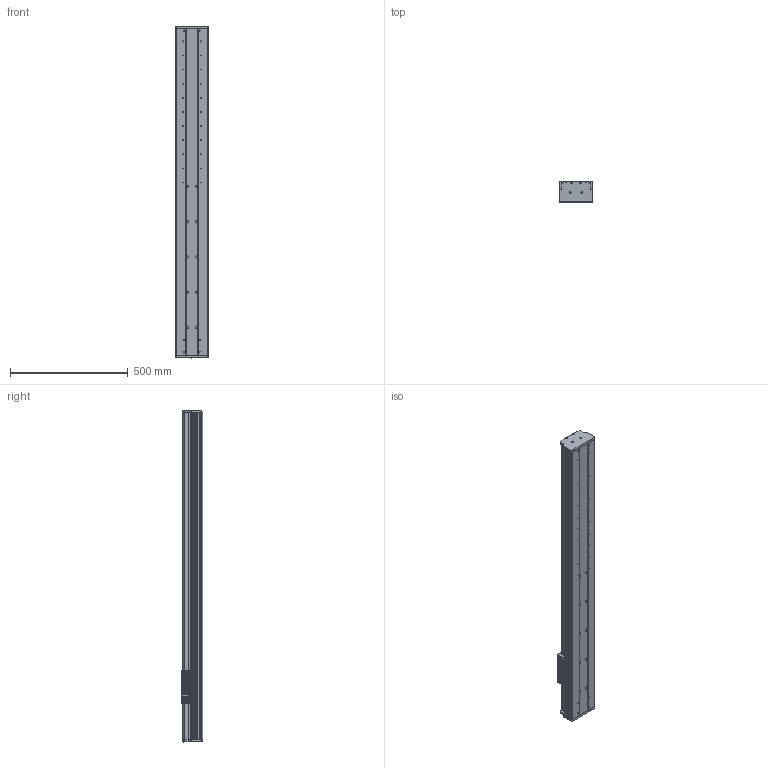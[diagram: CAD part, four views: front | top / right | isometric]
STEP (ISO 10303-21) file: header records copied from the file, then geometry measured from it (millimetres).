
FILE_DESCRIPTION (( 'STEP AP203' ), '1' );
FILE_NAME ('CF140B-C-1100-FW.STEP', '2020-06-13T01:45:33', ( 'Micorosoft' ), ( 'Micorosoft' ), 'SwSTEP 2.0', 'SolidWorks 2016', '' );
FILE_SCHEMA (( 'CONFIG_CONTROL_DESIGN' ));
Length unit declared in the file: millimetre
Products named in the file (10): CF140萇儂啣; 140B珨极嘐隅釱; 菁釱; CF140B-C-1100-FW; 15賑輸; 15絳寢; CF140蹟譫釱; CF140賑雄啣; CF140盓傅釱; CF140裔啣
Assembly tree (13 placements, depth 2):
  CF140B-C-1100-FW
    菁釱
    15賑輸  x4
    15絳寢  x2
    CF140蹟譫釱
    CF140賑雄啣
    CF140盓傅釱
    CF140裔啣
    CF140萇儂啣
    140B珨极嘐隅釱
Bounding box: 140.05 x 89.5 x 1410 mm (x, y, z)
Volume: 5812211.7 mm3; surface area: 2096888.3 mm2
Topology: 13 solids, 13 shells, 1323 faces, 3642 edges, 2366 vertices
Faces by surface type: cylinder 585, plane 545, bspline 121, cone 72
Entity records: 46882 total; most frequent: CARTESIAN_POINT 15019, ORIENTED_EDGE 6524, DIRECTION 6186, EDGE_CURVE 3262, AXIS2_PLACEMENT_3D 2167, VERTEX_POINT 2162, VECTOR 1852, LINE 1852
